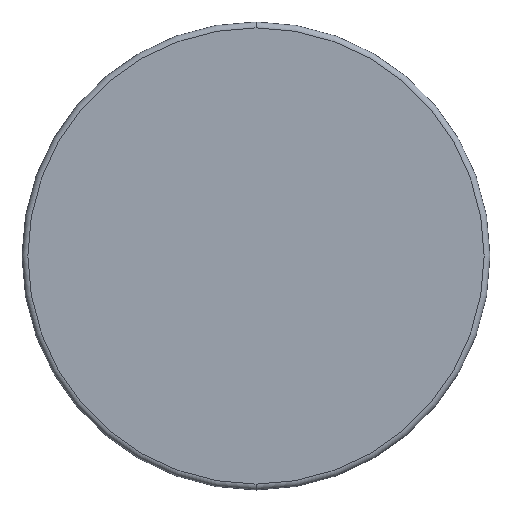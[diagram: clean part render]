
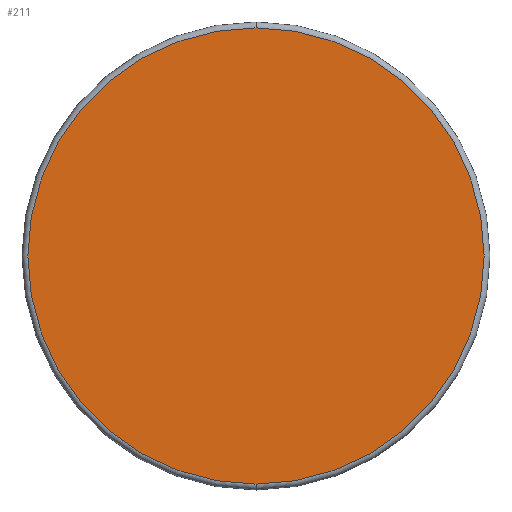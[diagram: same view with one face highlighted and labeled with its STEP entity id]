
A CAD part, front view. The second image highlights one B-rep face of the part: STEP entity #211.
In plain terms, the highlighted planar face has unit normal (0, -1, 0).
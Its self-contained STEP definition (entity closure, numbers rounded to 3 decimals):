
#4 = PLANE ( 'NONE',  #362 ) ;
#73 = DIRECTION ( 'NONE',  ( 0., 0., -1. ) ) ;
#101 = CIRCLE ( 'NONE', #607, 39. ) ;
#153 = VERTEX_POINT ( 'NONE', #547 ) ;
#198 = AXIS2_PLACEMENT_3D ( 'NONE', #744, #265, #600 ) ;
#211 = ADVANCED_FACE ( 'NONE', ( #789 ), #4, .F. ) ;
#265 = DIRECTION ( 'NONE',  ( 0., -1., 0. ) ) ;
#275 = CARTESIAN_POINT ( 'NONE',  ( 0., 0., -39. ) ) ;
#308 = CARTESIAN_POINT ( 'NONE',  ( 0., 0., 0. ) ) ;
#329 = CARTESIAN_POINT ( 'NONE',  ( 0., 0., 0. ) ) ;
#362 = AXIS2_PLACEMENT_3D ( 'NONE', #329, #1025, #577 ) ;
#491 = EDGE_CURVE ( 'NONE', #855, #153, #616, .T. ) ;
#510 = ORIENTED_EDGE ( 'NONE', *, *, #491, .T. ) ;
#547 = CARTESIAN_POINT ( 'NONE',  ( 0., 0., 39. ) ) ;
#577 = DIRECTION ( 'NONE',  ( 0., 0., 1. ) ) ;
#600 = DIRECTION ( 'NONE',  ( 0., 0., -1. ) ) ;
#607 = AXIS2_PLACEMENT_3D ( 'NONE', #308, #630, #73 ) ;
#616 = CIRCLE ( 'NONE', #198, 39. ) ;
#630 = DIRECTION ( 'NONE',  ( 0., -1., 0. ) ) ;
#744 = CARTESIAN_POINT ( 'NONE',  ( 0., 0., 0. ) ) ;
#789 = FACE_OUTER_BOUND ( 'NONE', #813, .T. ) ;
#813 = EDGE_LOOP ( 'NONE', ( #510, #942 ) ) ;
#855 = VERTEX_POINT ( 'NONE', #275 ) ;
#942 = ORIENTED_EDGE ( 'NONE', *, *, #1016, .T. ) ;
#1016 = EDGE_CURVE ( 'NONE', #153, #855, #101, .T. ) ;
#1025 = DIRECTION ( 'NONE',  ( 0., 1., 0. ) ) ;
